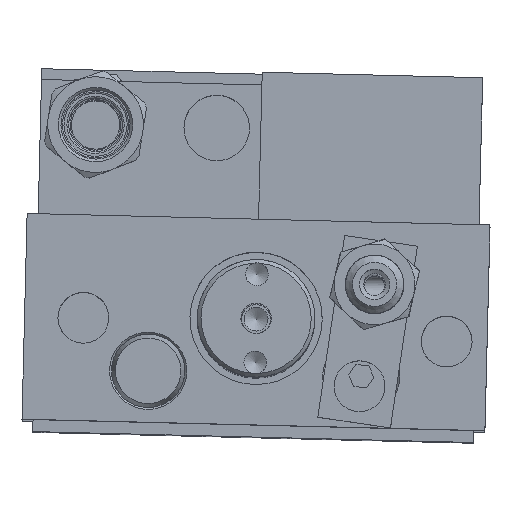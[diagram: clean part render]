
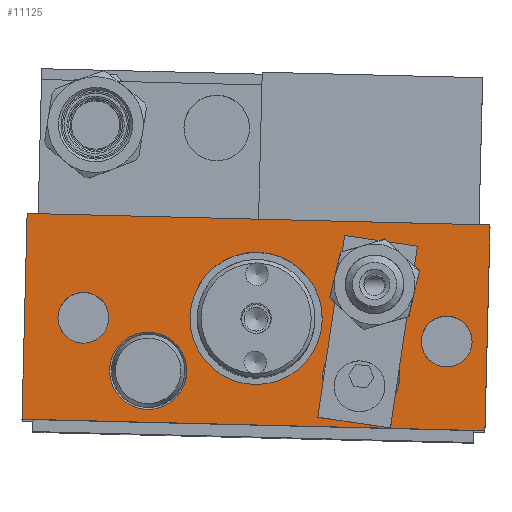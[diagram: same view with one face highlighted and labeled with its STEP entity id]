
A CAD part, top view. The second image highlights one B-rep face of the part: STEP entity #11125.
In plain terms, the highlighted planar face has unit normal (0, 0, 1).
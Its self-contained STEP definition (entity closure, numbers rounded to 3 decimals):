
#519=LINE('',#19076,#893);
#522=LINE('',#19093,#896);
#526=LINE('',#19182,#900);
#529=LINE('',#19186,#903);
#893=VECTOR('',#14973,10.);
#896=VECTOR('',#14992,10.);
#900=VECTOR('',#15092,10.);
#903=VECTOR('',#15097,10.);
#1273=PLANE('',#12521);
#1967=FACE_BOUND('',#3803,.T.);
#1968=FACE_BOUND('',#3804,.T.);
#1969=FACE_BOUND('',#3805,.T.);
#1970=FACE_BOUND('',#3806,.T.);
#1971=FACE_BOUND('',#3807,.T.);
#1972=FACE_BOUND('',#3808,.T.);
#2683=FACE_OUTER_BOUND('',#3802,.T.);
#3802=EDGE_LOOP('',(#8878,#8879,#8880,#8881));
#3803=EDGE_LOOP('',(#8882));
#3804=EDGE_LOOP('',(#8883));
#3805=EDGE_LOOP('',(#8884));
#3806=EDGE_LOOP('',(#8885));
#3807=EDGE_LOOP('',(#8886));
#3808=EDGE_LOOP('',(#8887));
#4640=CIRCLE('',#12445,9.);
#4644=CIRCLE('',#12451,4.5);
#4649=CIRCLE('',#12459,3.459);
#4651=CIRCLE('',#12462,3.459);
#4677=CIRCLE('',#12514,5.25);
#4678=CIRCLE('',#12516,5.25);
#5463=VERTEX_POINT('',#18833);
#5468=VERTEX_POINT('',#18878);
#5474=VERTEX_POINT('',#18984);
#5476=VERTEX_POINT('',#18989);
#5481=VERTEX_POINT('',#19073);
#5482=VERTEX_POINT('',#19075);
#5488=VERTEX_POINT('',#19092);
#5511=VERTEX_POINT('',#19170);
#5512=VERTEX_POINT('',#19173);
#5515=VERTEX_POINT('',#19181);
#6659=EDGE_CURVE('',#5463,#5463,#4640,.T.);
#6664=EDGE_CURVE('',#5468,#5468,#4644,.T.);
#6671=EDGE_CURVE('',#5474,#5474,#4649,.T.);
#6673=EDGE_CURVE('',#5476,#5476,#4651,.T.);
#6678=EDGE_CURVE('',#5482,#5481,#519,.T.);
#6685=EDGE_CURVE('',#5488,#5482,#522,.T.);
#6710=EDGE_CURVE('',#5511,#5511,#4677,.T.);
#6711=EDGE_CURVE('',#5512,#5512,#4678,.T.);
#6714=EDGE_CURVE('',#5515,#5488,#526,.T.);
#6717=EDGE_CURVE('',#5481,#5515,#529,.T.);
#8878=ORIENTED_EDGE('',*,*,#6717,.T.);
#8879=ORIENTED_EDGE('',*,*,#6714,.T.);
#8880=ORIENTED_EDGE('',*,*,#6685,.T.);
#8881=ORIENTED_EDGE('',*,*,#6678,.T.);
#8882=ORIENTED_EDGE('',*,*,#6673,.T.);
#8883=ORIENTED_EDGE('',*,*,#6671,.T.);
#8884=ORIENTED_EDGE('',*,*,#6664,.T.);
#8885=ORIENTED_EDGE('',*,*,#6659,.T.);
#8886=ORIENTED_EDGE('',*,*,#6710,.T.);
#8887=ORIENTED_EDGE('',*,*,#6711,.T.);
#11125=ADVANCED_FACE('',(#2683,#1967,#1968,#1969,#1970,#1971,#1972),#1273,
 .T.);
#12445=AXIS2_PLACEMENT_3D('',#18834,#14933,#14934);
#12451=AXIS2_PLACEMENT_3D('',#18879,#14945,#14946);
#12459=AXIS2_PLACEMENT_3D('',#18985,#14961,#14962);
#12462=AXIS2_PLACEMENT_3D('',#18990,#14967,#14968);
#12514=AXIS2_PLACEMENT_3D('',#19171,#15079,#15080);
#12516=AXIS2_PLACEMENT_3D('',#19174,#15083,#15084);
#12521=AXIS2_PLACEMENT_3D('',#19187,#15098,#15099);
#14933=DIRECTION('center_axis',(0.,0.,
-1.));
#14934=DIRECTION('ref_axis',(1.,-0.025,0.));
#14945=DIRECTION('center_axis',(0.,0.,
-1.));
#14946=DIRECTION('ref_axis',(1.,-0.025,0.));
#14961=DIRECTION('center_axis',(0.,0.,
-1.));
#14962=DIRECTION('ref_axis',(1.,-0.025,0.));
#14967=DIRECTION('center_axis',(0.,0.,
-1.));
#14968=DIRECTION('ref_axis',(1.,-0.025,0.));
#14973=DIRECTION('',(0.025,1.,0.));
#14992=DIRECTION('',(1.,-0.025,0.));
#15079=DIRECTION('center_axis',(0.,0.,
-1.));
#15080=DIRECTION('ref_axis',(-1.,0.025,0.));
#15083=DIRECTION('center_axis',(0.,0.,
-1.));
#15084=DIRECTION('ref_axis',(-1.,0.025,0.));
#15092=DIRECTION('',(-0.025,-1.,0.));
#15097=DIRECTION('',(-1.,0.025,0.));
#15098=DIRECTION('center_axis',(0.,0.,
1.));
#15099=DIRECTION('ref_axis',(-1.,0.025,0.));
#18833=CARTESIAN_POINT('',(-33.116,50.342,-125.157));
#18834=CARTESIAN_POINT('Origin',(-24.118,50.118,-125.157));
#18878=CARTESIAN_POINT('',(-12.498,54.831,-125.157));
#18879=CARTESIAN_POINT('Origin',(-7.999,54.719,-125.157));
#18984=CARTESIAN_POINT('',(-1.646,47.059,-125.157));
#18985=CARTESIAN_POINT('Origin',(1.811,46.973,-125.157));
#18989=CARTESIAN_POINT('',(-51.081,50.289,-125.157));
#18990=CARTESIAN_POINT('Origin',(-47.624,50.203,-125.157));
#19073=CARTESIAN_POINT('',(7.707,62.831,-125.157));
#19075=CARTESIAN_POINT('',(7.011,34.84,-125.157));
#19076=CARTESIAN_POINT('',(7.011,34.84,-125.157));
#19092=CARTESIAN_POINT('',(-55.969,36.406,-125.157));
#19093=CARTESIAN_POINT('',(-55.969,36.406,-125.157));
#19170=CARTESIAN_POINT('',(-44.049,43.112,-125.157));
#19171=CARTESIAN_POINT('Origin',(-38.8,42.981,-125.157));
#19173=CARTESIAN_POINT('',(-15.058,42.391,-125.157));
#19174=CARTESIAN_POINT('Origin',(-9.809,42.26,-125.157));
#19181=CARTESIAN_POINT('',(-55.273,64.397,-125.157));
#19182=CARTESIAN_POINT('',(-55.273,64.397,-125.157));
#19186=CARTESIAN_POINT('',(7.707,62.831,-125.157));
#19187=CARTESIAN_POINT('Origin',(-24.131,49.619,-125.157));
